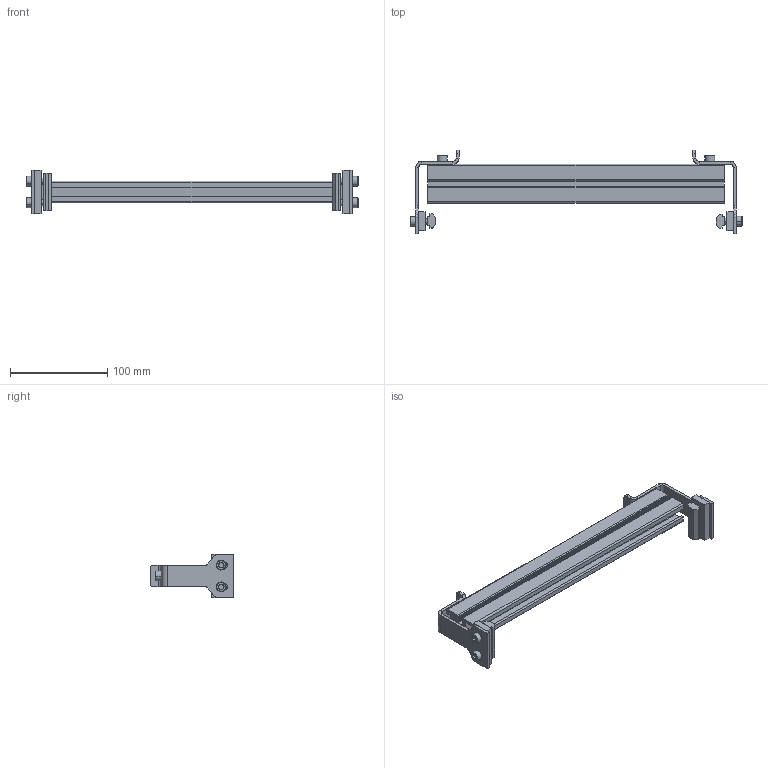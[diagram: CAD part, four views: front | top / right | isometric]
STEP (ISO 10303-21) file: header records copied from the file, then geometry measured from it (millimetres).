
FILE_DESCRIPTION (( 'STEP AP214' ), '1' );
FILE_NAME ('207133-12.STEP', '2016-10-06T16:07:40', ( '' ), ( '' ), 'SwSTEP 2.0', 'SolidWorks 2015', '' );
FILE_SCHEMA (( 'AUTOMOTIVE_DESIGN' ));
Length unit declared in the file: inch
Products named in the file (8): 202444; 207133-12; 207135-WW_207135-12; 9206XXM_920620M; 9206XXM_920614M; 639971M_CAE; 201937; 200626M
Assembly tree (15 placements, depth 2):
  207133-12
    201937  x2
    207135-WW_207135-12
    202444  x2
    200626M  x2
    639971M_CAE  x2
    9206XXM_920614M  x2
    9206XXM_920620M  x4
Bounding box: 340.57 x 85.8 x 44.45 mm (x, y, z)
Volume: 167708.8 mm3; surface area: 104919.3 mm2
Topology: 15 solids, 15 shells, 428 faces, 1030 edges, 644 vertices
Faces by surface type: plane 258, cylinder 104, cone 66
Entity records: 7626 total; most frequent: CARTESIAN_POINT 1362, DIRECTION 1216, ORIENTED_EDGE 1200, EDGE_CURVE 600, LINE 460, VECTOR 460, VERTEX_POINT 384, AXIS2_PLACEMENT_3D 378
